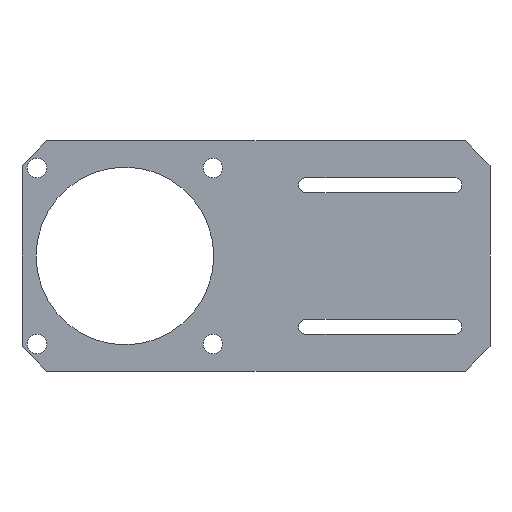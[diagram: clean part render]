
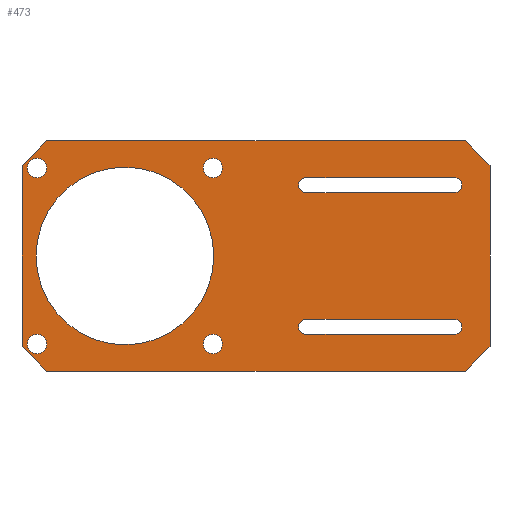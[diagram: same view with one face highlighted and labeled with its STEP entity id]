
A CAD part, front view. The second image highlights one B-rep face of the part: STEP entity #473.
In plain terms, the highlighted planar face has unit normal (0, -1, 0).
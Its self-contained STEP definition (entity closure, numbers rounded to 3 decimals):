
#22=FACE_BOUND('',#96,.T.);
#23=FACE_BOUND('',#97,.T.);
#24=FACE_BOUND('',#98,.T.);
#25=FACE_BOUND('',#99,.T.);
#26=FACE_BOUND('',#100,.T.);
#27=FACE_BOUND('',#101,.T.);
#28=FACE_BOUND('',#102,.T.);
#42=PLANE('',#537);
#65=FACE_OUTER_BOUND('',#95,.T.);
#95=EDGE_LOOP('',(#421,#422,#423,#424,#425,#426,#427,#428));
#96=EDGE_LOOP('',(#429));
#97=EDGE_LOOP('',(#430,#431,#432,#433));
#98=EDGE_LOOP('',(#434,#435,#436,#437));
#99=EDGE_LOOP('',(#438));
#100=EDGE_LOOP('',(#439));
#101=EDGE_LOOP('',(#440));
#102=EDGE_LOOP('',(#441));
#107=LINE('',#687,#152);
#111=LINE('',#697,#156);
#115=LINE('',#711,#160);
#119=LINE('',#721,#164);
#126=LINE('',#753,#171);
#130=LINE('',#760,#175);
#133=LINE('',#766,#178);
#136=LINE('',#772,#181);
#139=LINE('',#778,#184);
#142=LINE('',#784,#187);
#145=LINE('',#790,#190);
#147=LINE('',#793,#192);
#152=VECTOR('',#558,10.);
#156=VECTOR('',#570,10.);
#160=VECTOR('',#582,10.);
#164=VECTOR('',#594,10.);
#171=VECTOR('',#627,10.);
#175=VECTOR('',#633,10.);
#178=VECTOR('',#638,10.);
#181=VECTOR('',#643,10.);
#184=VECTOR('',#648,10.);
#187=VECTOR('',#653,10.);
#190=VECTOR('',#658,10.);
#192=VECTOR('',#662,10.);
#193=CIRCLE('',#498,25.05);
#196=CIRCLE('',#502,2.075);
#198=CIRCLE('',#506,2.075);
#200=CIRCLE('',#510,2.075);
#202=CIRCLE('',#514,2.075);
#203=CIRCLE('',#517,2.725);
#205=CIRCLE('',#520,2.725);
#207=CIRCLE('',#523,2.725);
#209=CIRCLE('',#526,2.725);
#211=VERTEX_POINT('',#669);
#215=VERTEX_POINT('',#678);
#216=VERTEX_POINT('',#680);
#218=VERTEX_POINT('',#686);
#220=VERTEX_POINT('',#692);
#223=VERTEX_POINT('',#702);
#224=VERTEX_POINT('',#704);
#226=VERTEX_POINT('',#710);
#228=VERTEX_POINT('',#716);
#229=VERTEX_POINT('',#723);
#231=VERTEX_POINT('',#729);
#233=VERTEX_POINT('',#735);
#235=VERTEX_POINT('',#741);
#239=VERTEX_POINT('',#750);
#240=VERTEX_POINT('',#752);
#242=VERTEX_POINT('',#758);
#244=VERTEX_POINT('',#764);
#246=VERTEX_POINT('',#770);
#248=VERTEX_POINT('',#776);
#250=VERTEX_POINT('',#782);
#252=VERTEX_POINT('',#788);
#253=EDGE_CURVE('',#211,#211,#193,.T.);
#258=EDGE_CURVE('',#216,#215,#196,.T.);
#261=EDGE_CURVE('',#218,#216,#107,.T.);
#264=EDGE_CURVE('',#220,#218,#198,.T.);
#267=EDGE_CURVE('',#215,#220,#111,.T.);
#270=EDGE_CURVE('',#224,#223,#200,.T.);
#273=EDGE_CURVE('',#226,#224,#115,.T.);
#276=EDGE_CURVE('',#228,#226,#202,.T.);
#279=EDGE_CURVE('',#223,#228,#119,.T.);
#280=EDGE_CURVE('',#229,#229,#203,.T.);
#283=EDGE_CURVE('',#231,#231,#205,.T.);
#286=EDGE_CURVE('',#233,#233,#207,.T.);
#289=EDGE_CURVE('',#235,#235,#209,.T.);
#294=EDGE_CURVE('',#240,#239,#126,.T.);
#298=EDGE_CURVE('',#239,#242,#130,.T.);
#301=EDGE_CURVE('',#242,#244,#133,.T.);
#304=EDGE_CURVE('',#244,#246,#136,.T.);
#307=EDGE_CURVE('',#246,#248,#139,.T.);
#310=EDGE_CURVE('',#248,#250,#142,.T.);
#313=EDGE_CURVE('',#250,#252,#145,.T.);
#315=EDGE_CURVE('',#252,#240,#147,.T.);
#421=ORIENTED_EDGE('',*,*,#315,.T.);
#422=ORIENTED_EDGE('',*,*,#294,.T.);
#423=ORIENTED_EDGE('',*,*,#298,.T.);
#424=ORIENTED_EDGE('',*,*,#301,.T.);
#425=ORIENTED_EDGE('',*,*,#304,.T.);
#426=ORIENTED_EDGE('',*,*,#307,.T.);
#427=ORIENTED_EDGE('',*,*,#310,.T.);
#428=ORIENTED_EDGE('',*,*,#313,.T.);
#429=ORIENTED_EDGE('',*,*,#253,.T.);
#430=ORIENTED_EDGE('',*,*,#258,.T.);
#431=ORIENTED_EDGE('',*,*,#267,.T.);
#432=ORIENTED_EDGE('',*,*,#264,.T.);
#433=ORIENTED_EDGE('',*,*,#261,.T.);
#434=ORIENTED_EDGE('',*,*,#270,.T.);
#435=ORIENTED_EDGE('',*,*,#279,.T.);
#436=ORIENTED_EDGE('',*,*,#276,.T.);
#437=ORIENTED_EDGE('',*,*,#273,.T.);
#438=ORIENTED_EDGE('',*,*,#280,.T.);
#439=ORIENTED_EDGE('',*,*,#283,.T.);
#440=ORIENTED_EDGE('',*,*,#286,.T.);
#441=ORIENTED_EDGE('',*,*,#289,.T.);
#473=ADVANCED_FACE('',(#65,#22,#23,#24,#25,#26,#27,#28),#42,.F.);
#498=AXIS2_PLACEMENT_3D('',#670,#542,#543);
#502=AXIS2_PLACEMENT_3D('',#681,#552,#553);
#506=AXIS2_PLACEMENT_3D('',#693,#564,#565);
#510=AXIS2_PLACEMENT_3D('',#705,#576,#577);
#514=AXIS2_PLACEMENT_3D('',#717,#588,#589);
#517=AXIS2_PLACEMENT_3D('',#724,#597,#598);
#520=AXIS2_PLACEMENT_3D('',#730,#604,#605);
#523=AXIS2_PLACEMENT_3D('',#736,#611,#612);
#526=AXIS2_PLACEMENT_3D('',#742,#618,#619);
#537=AXIS2_PLACEMENT_3D('',#795,#665,#666);
#542=DIRECTION('center_axis',(0.,1.,0.));
#543=DIRECTION('ref_axis',(1.,0.,0.));
#552=DIRECTION('center_axis',(0.,1.,0.));
#553=DIRECTION('ref_axis',(0.,0.,1.));
#558=DIRECTION('',(1.,0.,0.));
#564=DIRECTION('center_axis',(0.,1.,0.));
#565=DIRECTION('ref_axis',(0.,0.,-1.));
#570=DIRECTION('',(-1.,0.,0.));
#576=DIRECTION('center_axis',(0.,1.,0.));
#577=DIRECTION('ref_axis',(0.,0.,1.));
#582=DIRECTION('',(-1.,0.,0.));
#588=DIRECTION('center_axis',(0.,1.,0.));
#589=DIRECTION('ref_axis',(0.,0.,-1.));
#594=DIRECTION('',(1.,0.,0.));
#597=DIRECTION('center_axis',(0.,1.,0.));
#598=DIRECTION('ref_axis',(1.,0.,0.));
#604=DIRECTION('center_axis',(0.,1.,0.));
#605=DIRECTION('ref_axis',(1.,0.,0.));
#611=DIRECTION('center_axis',(0.,1.,0.));
#612=DIRECTION('ref_axis',(1.,0.,0.));
#618=DIRECTION('center_axis',(0.,1.,0.));
#619=DIRECTION('ref_axis',(1.,0.,0.));
#627=DIRECTION('',(0.,0.,-1.));
#633=DIRECTION('',(0.707,0.,-0.707));
#638=DIRECTION('',(1.,0.,0.));
#643=DIRECTION('',(0.707,0.,0.707));
#648=DIRECTION('',(0.,0.,1.));
#653=DIRECTION('',(-0.707,0.,0.707));
#658=DIRECTION('',(-1.,0.,0.));
#662=DIRECTION('',(-0.707,0.,-0.707));
#665=DIRECTION('center_axis',(0.,1.,0.));
#666=DIRECTION('ref_axis',(0.,0.,1.));
#669=CARTESIAN_POINT('',(-62.025,0.,0.));
#670=CARTESIAN_POINT('Origin',(-36.975,0.,0.));
#678=CARTESIAN_POINT('',(56.025,0.,-22.05));
#680=CARTESIAN_POINT('',(56.025,0.,-17.9));
#681=CARTESIAN_POINT('Origin',(56.025,0.,-19.975));
#686=CARTESIAN_POINT('',(14.075,0.,-17.9));
#687=CARTESIAN_POINT('',(28.013,0.,-17.9));
#692=CARTESIAN_POINT('',(14.075,0.,-22.05));
#693=CARTESIAN_POINT('Origin',(14.075,0.,-19.975));
#697=CARTESIAN_POINT('',(7.038,0.,-22.05));
#702=CARTESIAN_POINT('',(14.075,0.,22.05));
#704=CARTESIAN_POINT('',(14.075,0.,17.9));
#705=CARTESIAN_POINT('Origin',(14.075,0.,19.975));
#710=CARTESIAN_POINT('',(56.025,0.,17.9));
#711=CARTESIAN_POINT('',(7.038,0.,17.9));
#716=CARTESIAN_POINT('',(56.025,0.,22.05));
#717=CARTESIAN_POINT('Origin',(56.025,0.,19.975));
#721=CARTESIAN_POINT('',(28.013,0.,22.05));
#723=CARTESIAN_POINT('',(-14.9,0.,24.8));
#724=CARTESIAN_POINT('Origin',(-12.175,0.,24.8));
#729=CARTESIAN_POINT('',(-14.9,0.,-24.8));
#730=CARTESIAN_POINT('Origin',(-12.175,0.,-24.8));
#735=CARTESIAN_POINT('',(-64.5,0.,-24.8));
#736=CARTESIAN_POINT('Origin',(-61.775,0.,-24.8));
#741=CARTESIAN_POINT('',(-64.5,0.,24.8));
#742=CARTESIAN_POINT('Origin',(-61.775,0.,24.8));
#750=CARTESIAN_POINT('',(-66.,0.,-25.5));
#752=CARTESIAN_POINT('',(-66.,0.,25.5));
#753=CARTESIAN_POINT('',(-66.,0.,25.5));
#758=CARTESIAN_POINT('',(-59.,0.,-32.5));
#760=CARTESIAN_POINT('',(-66.,0.,-25.5));
#764=CARTESIAN_POINT('',(59.,0.,-32.5));
#766=CARTESIAN_POINT('',(-59.,0.,-32.5));
#770=CARTESIAN_POINT('',(66.,0.,-25.5));
#772=CARTESIAN_POINT('',(59.,0.,-32.5));
#776=CARTESIAN_POINT('',(66.,0.,25.5));
#778=CARTESIAN_POINT('',(66.,0.,-25.5));
#782=CARTESIAN_POINT('',(59.,0.,32.5));
#784=CARTESIAN_POINT('',(66.,0.,25.5));
#788=CARTESIAN_POINT('',(-59.,0.,32.5));
#790=CARTESIAN_POINT('',(59.,0.,32.5));
#793=CARTESIAN_POINT('',(-59.,0.,32.5));
#795=CARTESIAN_POINT('Origin',(0.,0.,0.));
